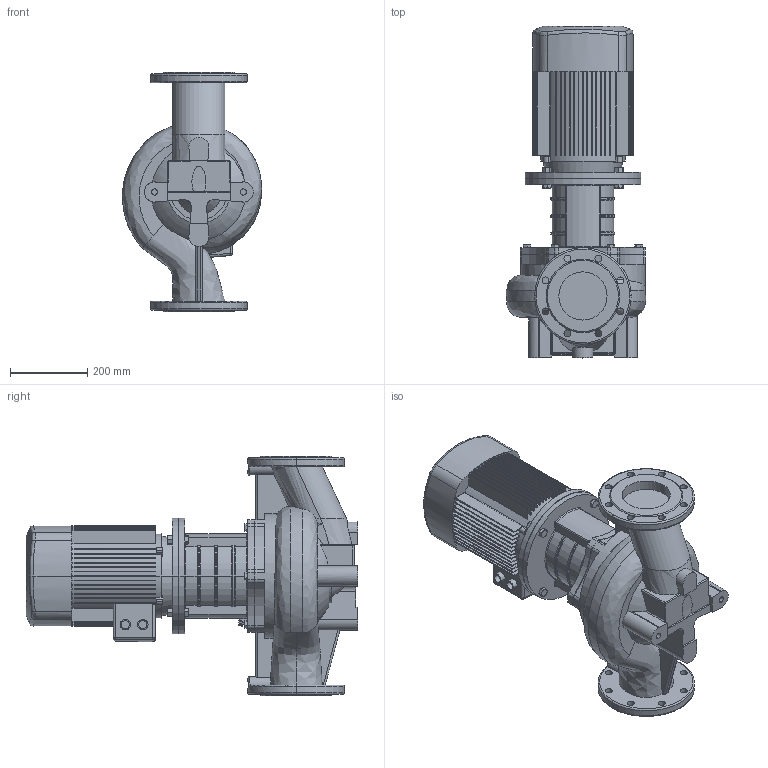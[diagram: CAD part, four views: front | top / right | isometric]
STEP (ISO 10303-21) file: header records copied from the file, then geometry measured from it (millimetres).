
FILE_DESCRIPTION (( 'STEP AP203' ), '1' );
FILE_NAME ('TD125-11G／4.STEP', '2026-09-07T09:22:34', ( '' ), ( '' ), 'SwSTEP 2.0', 'SolidWorks 2020', '' );
FILE_SCHEMA (( 'CONFIG_CONTROL_DESIGN' ));
Length unit declared in the file: millimetre
Products named in the file (1): TD125-11Gㄞ4
Bounding box: 360.74 x 860 x 620 mm (x, y, z)
Volume: 49909075.5 mm3; surface area: 1944041.3 mm2
Topology: 1 solids, 10 shells, 1290 faces, 3384 edges, 2123 vertices
Faces by surface type: plane 630, cylinder 329, cone 147, torus 107, bspline 43, sphere 34
Entity records: 53032 total; most frequent: CARTESIAN_POINT 21417, ORIENTED_EDGE 6712, DIRECTION 6584, EDGE_CURVE 3356, AXIS2_PLACEMENT_3D 2480, VERTEX_POINT 2123, LINE 1624, VECTOR 1624
